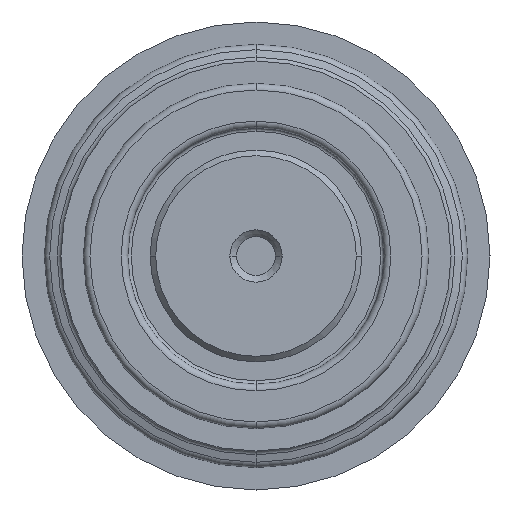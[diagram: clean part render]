
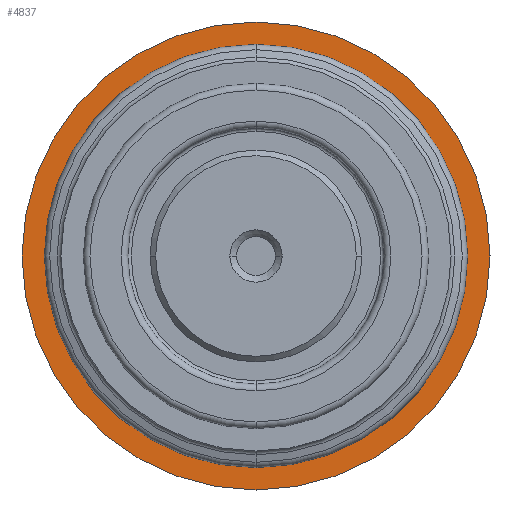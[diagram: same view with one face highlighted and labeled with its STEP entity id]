
A CAD part, front view. The second image highlights one B-rep face of the part: STEP entity #4837.
In plain terms, the highlighted planar face has unit normal (0, -1, 0).
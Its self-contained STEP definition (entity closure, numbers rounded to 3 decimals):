
#104 = DIRECTION ( 'NONE',  ( 0., 0., -1. ) ) ;
#249 = DIRECTION ( 'NONE',  ( 0., 0., -1. ) ) ;
#266 = CIRCLE ( 'NONE', #2933, 16.5 ) ;
#442 = AXIS2_PLACEMENT_3D ( 'NONE', #4177, #1429, #249 ) ;
#540 = DIRECTION ( 'NONE',  ( 0., 1., 0. ) ) ;
#554 = CIRCLE ( 'NONE', #4986, 21. ) ;
#608 = DIRECTION ( 'NONE',  ( 0., 1., 0. ) ) ;
#632 = PLANE ( 'NONE',  #1170 ) ;
#866 = EDGE_LOOP ( 'NONE', ( #1201, #5100 ) ) ;
#894 = DIRECTION ( 'NONE',  ( 0., 1., 0. ) ) ;
#1045 = AXIS2_PLACEMENT_3D ( 'NONE', #1357, #540, #3246 ) ;
#1104 = CIRCLE ( 'NONE', #442, 16.5 ) ;
#1170 = AXIS2_PLACEMENT_3D ( 'NONE', #2958, #608, #3357 ) ;
#1201 = ORIENTED_EDGE ( 'NONE', *, *, #4650, .F. ) ;
#1357 = CARTESIAN_POINT ( 'NONE',  ( 0., -2., 0. ) ) ;
#1429 = DIRECTION ( 'NONE',  ( 0., 1., 0. ) ) ;
#1561 = CARTESIAN_POINT ( 'NONE',  ( 0., -2., -21. ) ) ;
#1631 = ORIENTED_EDGE ( 'NONE', *, *, #3490, .T. ) ;
#1708 = VERTEX_POINT ( 'NONE', #1561 ) ;
#1877 = FACE_BOUND ( 'NONE', #3713, .T. ) ;
#2080 = CARTESIAN_POINT ( 'NONE',  ( 0., -2., 0. ) ) ;
#2092 = EDGE_CURVE ( 'NONE', #2153, #4658, #1104, .T. ) ;
#2153 = VERTEX_POINT ( 'NONE', #3320 ) ;
#2820 = CIRCLE ( 'NONE', #1045, 21. ) ;
#2933 = AXIS2_PLACEMENT_3D ( 'NONE', #4362, #894, #104 ) ;
#2958 = CARTESIAN_POINT ( 'NONE',  ( -16.5, -2., 0. ) ) ;
#3246 = DIRECTION ( 'NONE',  ( 0., 0., -1. ) ) ;
#3278 = DIRECTION ( 'NONE',  ( 0., 1., 0. ) ) ;
#3287 = FACE_OUTER_BOUND ( 'NONE', #866, .T. ) ;
#3320 = CARTESIAN_POINT ( 'NONE',  ( 0., -2., 16.5 ) ) ;
#3357 = DIRECTION ( 'NONE',  ( 0., 0., -1. ) ) ;
#3490 = EDGE_CURVE ( 'NONE', #4658, #2153, #266, .T. ) ;
#3637 = ORIENTED_EDGE ( 'NONE', *, *, #2092, .T. ) ;
#3713 = EDGE_LOOP ( 'NONE', ( #1631, #3637 ) ) ;
#3765 = VERTEX_POINT ( 'NONE', #3797 ) ;
#3797 = CARTESIAN_POINT ( 'NONE',  ( 0., -2., 21. ) ) ;
#4177 = CARTESIAN_POINT ( 'NONE',  ( 0., -2., 0. ) ) ;
#4342 = CARTESIAN_POINT ( 'NONE',  ( 0., -2., -16.5 ) ) ;
#4362 = CARTESIAN_POINT ( 'NONE',  ( 0., -2., 0. ) ) ;
#4482 = EDGE_CURVE ( 'NONE', #3765, #1708, #2820, .T. ) ;
#4485 = DIRECTION ( 'NONE',  ( 0., 0., -1. ) ) ;
#4650 = EDGE_CURVE ( 'NONE', #1708, #3765, #554, .T. ) ;
#4658 = VERTEX_POINT ( 'NONE', #4342 ) ;
#4837 = ADVANCED_FACE ( 'NONE', ( #3287, #1877 ), #632, .F. ) ;
#4986 = AXIS2_PLACEMENT_3D ( 'NONE', #2080, #3278, #4485 ) ;
#5100 = ORIENTED_EDGE ( 'NONE', *, *, #4482, .F. ) ;
